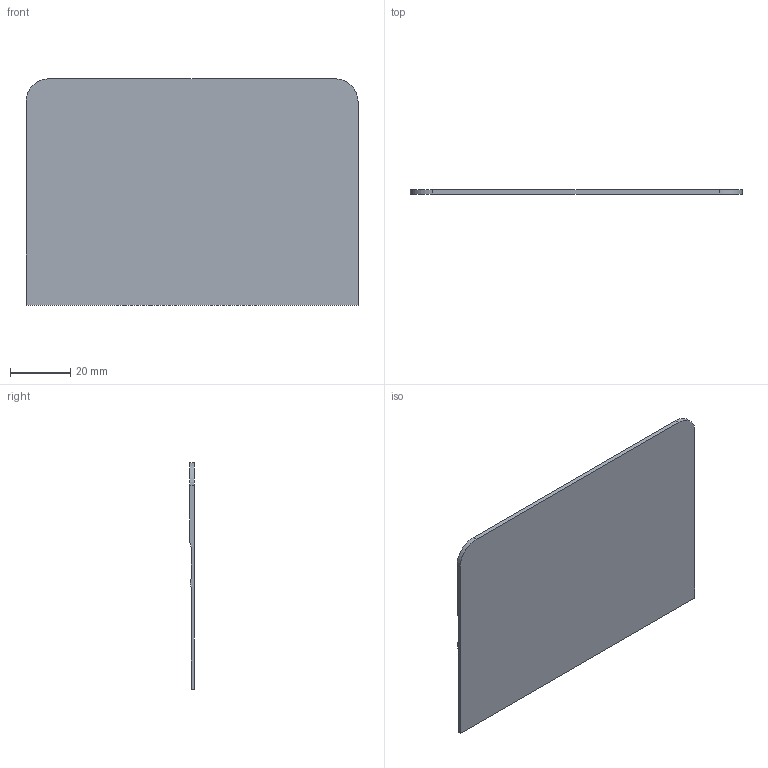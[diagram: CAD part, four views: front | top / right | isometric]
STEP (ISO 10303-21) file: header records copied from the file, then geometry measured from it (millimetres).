
FILE_DESCRIPTION(/* description */ (''),/* implementation_level */ '2;1');
FILE_NAME(/* name */ 'C:/Users/AZ/Desktop/desk_label.step',/* time_stamp */ '2022-08-28T01:04:01+03:00',/* author */ (''),/* organization */ (''),/* preprocessor_version */ 'ST-DEVELOPER v19',/* originating_system */ 'Autodesk Translation Framework v11.7.0.108',/* authorisation */ '');
FILE_SCHEMA (('AUTOMOTIVE_DESIGN { 1 0 10303 214 3 1 1 }'));
Length unit declared in the file: millimetre
Products named in the file (1): Desk Label
Bounding box: 110 x 1.5 x 75 mm (x, y, z)
Volume: 9790.4 mm3; surface area: 16916.1 mm2
Topology: 1 solids, 1 shells, 15 faces, 39 edges, 26 vertices
Faces by surface type: plane 8, cylinder 7
Entity records: 521 total; most frequent: DIRECTION 85, CARTESIAN_POINT 81, ORIENTED_EDGE 78, EDGE_CURVE 39, AXIS2_PLACEMENT_3D 30, VERTEX_POINT 26, LINE 25, VECTOR 25
